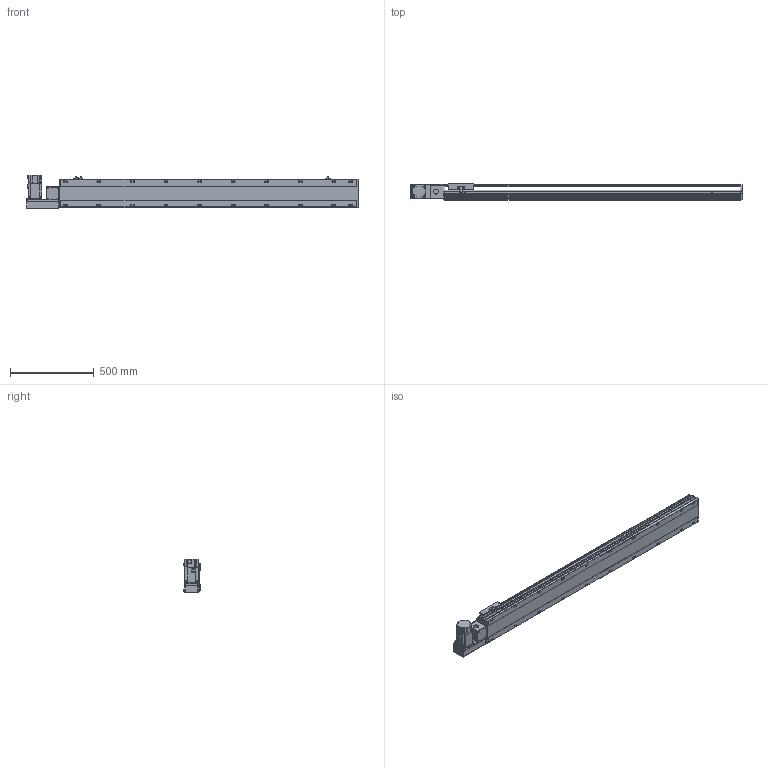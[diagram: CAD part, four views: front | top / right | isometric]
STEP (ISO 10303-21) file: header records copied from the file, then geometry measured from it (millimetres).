
FILE_DESCRIPTION( ( 'STEP AP214' ), '1' );
FILE_NAME( 'x:/temp/worker_2/temp/exporttempdir_1320_70_yBqEQ/format_0/PBS170-P40-S1500-L-T75-C1-N(0).stp', '2022-06-07T06:56:08', ( 'License CC BY-ND 4.0' ), ( 'CADENAS' ), ' ', 'PARTsolutions', ' ' );
FILE_SCHEMA( ( 'AUTOMOTIVE_DESIGN { 1 0 10303 214 1 1 1 1 }' ) );
Length unit declared in the file: millimetre
Products named in the file (7): PBS170-P40-S1500-L-T75-C1-N(0); _PBS170-S1500()_body; _PBS170T-L_motors; _T75-p1; _PBS170_sliser; _PBS170_plant; _PBS170_sensor
Assembly tree (8 placements, depth 2):
  PBS170-P40-S1500-L-T75-C1-N(0)
    _PBS170-S1500()_body
    _PBS170T-L_motors
    _T75-p1
    _PBS170_sliser
    _PBS170_plant
    _PBS170_sensor  x3
Bounding box: 1978 x 97 x 197.3 mm (x, y, z)
Volume: 14551993.5 mm3; surface area: 1870427.2 mm2
Topology: 8 solids, 8 shells, 1114 faces, 2955 edges, 1926 vertices
Faces by surface type: plane 699, cylinder 355, cone 50, sphere 8, torus 2
Full cylindrical faces by diameter (mm): 3.242 x4, 4 x2, 4.4 x4, 4.5 x6, 4.917 x4, 6 x9, 6.647 x28, 7 x2, 7.5 x4, 8 x8, 8.5 x20, 10 x4, 10.5 x20, 11 x2, 30 x2, 40 x1, 70 x1
Entity records: 41024 total; most frequent: CARTESIAN_POINT 6557, DIRECTION 5440, ORIENTED_EDGE 5148, EDGE_CURVE 2574, AXIS2_PLACEMENT_3D 1897, VERTEX_POINT 1778, LINE 1646, VECTOR 1646
